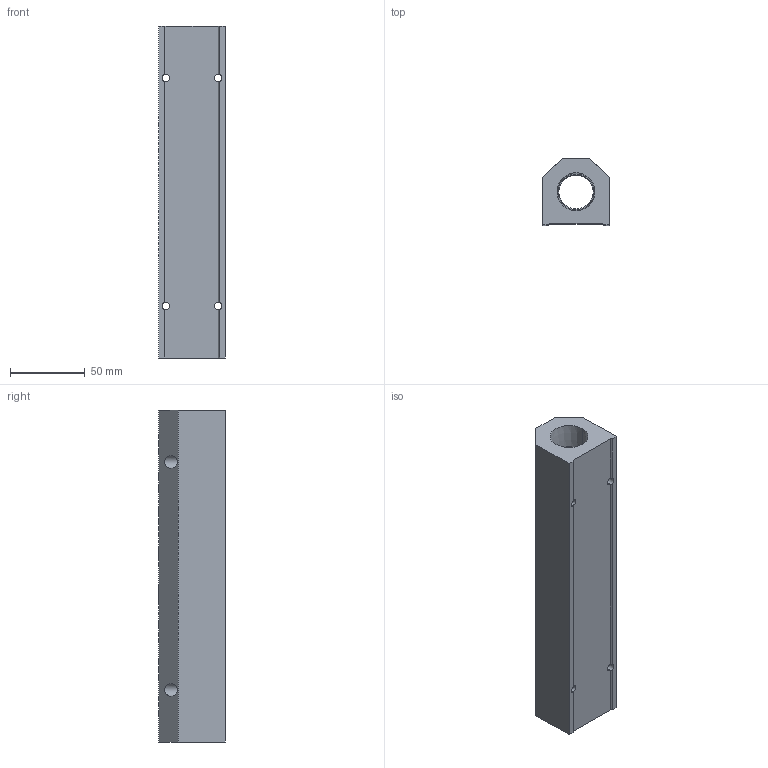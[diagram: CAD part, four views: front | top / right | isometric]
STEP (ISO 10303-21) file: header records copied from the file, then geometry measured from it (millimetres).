
FILE_DESCRIPTION (( 'STEP AP214' ), '1' );
FILE_NAME ('ALM8C-N4N12-222B.step', '2022-02-06T14:10:42', ( '' ), ( '' ), 'SwSTEP 2.0', 'SolidWorks 2020', '' );
FILE_SCHEMA (( 'AUTOMOTIVE_DESIGN' ));
Length unit declared in the file: millimetre
Products named in the file (1): ALM8C-N4N12-222B
Bounding box: 44.5 x 44.5 x 222 mm (x, y, z)
Volume: 285011.8 mm3; surface area: 59038.4 mm2
Topology: 1 solids, 1 shells, 305 faces, 809 edges, 534 vertices
Faces by surface type: plane 193, bspline 64, cone 26, cylinder 22
Entity records: 14337 total; most frequent: CARTESIAN_POINT 6925, ORIENTED_EDGE 1618, DIRECTION 1189, EDGE_CURVE 809, VECTOR 577, LINE 577, VERTEX_POINT 534, EDGE_LOOP 359
